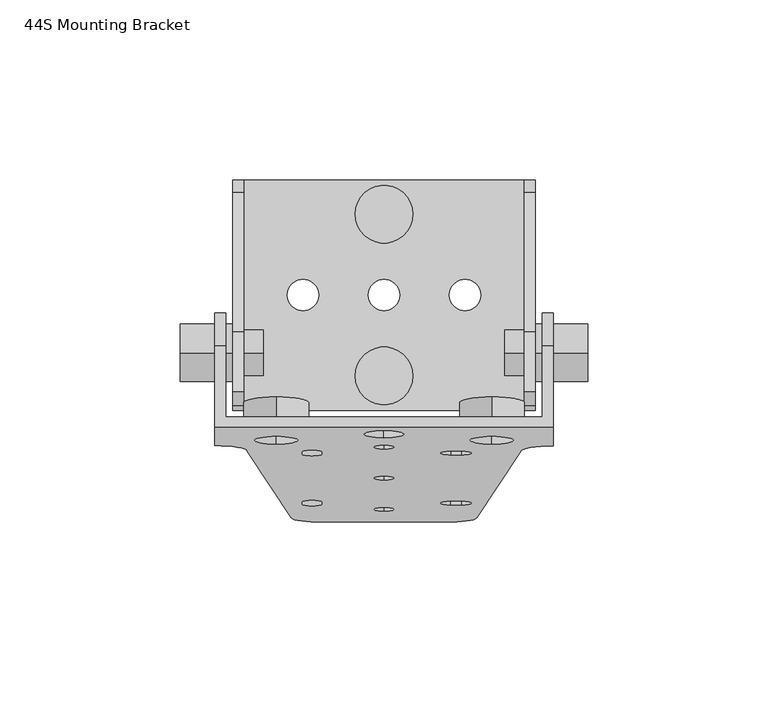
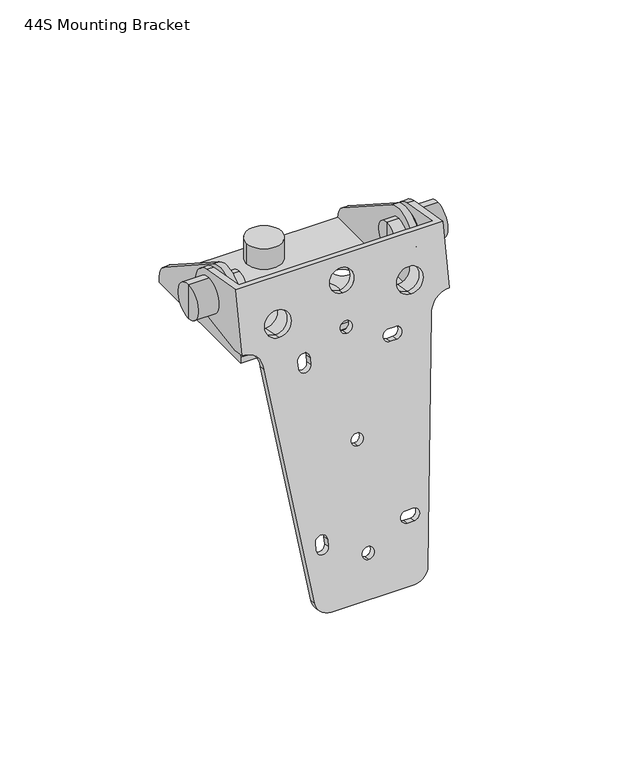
"""IFC4 building model written with IfcOpenShell, lengths in millimetres: proxy geometry, d&b xS-Series 44S Mounting Bracket : 44S Mounting Bracket."""

from ifc_helpers import new_model, si_unit, point, frame, frame_2d, origin, origin_with_axes, place, context, project, spatial, polyline, circle_curve, trimmed, segment, composite_curve, outline, extrude, source, transform, mapped, element, save
from ifc_brep_helpers import plane_surface, cylinder_surface, revolved_surface, advanced_brep


def proxy_44s_mounting_bracket_82e6f1c7(model_context):
    return source(origin(), model_context, "Body", "SolidModel", [
        advanced_brep(
        [(-25.7132706, -58.9735909, -103.2943461), (-37.9949251, -40.4356199, 1.8397119), (-47.0, -38.871905, 10.7079795), (-44.0, -38.871905, 10.7079795), (-44.0, -33.8293291, 39.3058488), (44.0, -33.8293291, 39.3058488), (44.0, -38.871905, 10.7079795), (47.0, -38.871905, 10.7079795), (47.0, -38.9263951, 10.3989511), (37.9541317, -40.4971936, 1.4905099), (25.7132706, -58.9735909, -103.2943461), (18.7591389, -60.0502039, -109.4001219), (-18.7591389, -60.0502039, -109.4001219), (-29.9380242, -38.4341216, 13.1907728), (-29.9380242, -36.3503434, 25.0084658), (29.9380242, -38.4341216, 13.1907728), (29.9380242, -36.3503434, 25.0084658), (0.0, -57.0547728, -92.4121881), (0.0, -56.0997078, -86.9957455), (0.0, -39.7767791, 5.5761833), (0.0, -38.8217142, 10.9926259), (0.0, -36.694524, 23.0565209), (0.0, -34.784394, 33.8894062), (-22.75, -40.6884321, 0.4059426), (-22.75, -41.2093766, -2.5484807), (-17.25, -41.2093766, -2.5484807), (-17.25, -40.6884321, 0.4059426), (21.5, -40.4713719, 1.6369523), (18.5, -40.4713719, 1.6369523), (18.5, -41.4264368, -3.7794904), (21.5, -41.4264368, -3.7794904), (-17.25, -55.1012308, -81.3331009), (-17.25, -54.5802863, -78.3786776), (-22.75, -54.5802863, -78.3786776), (-22.75, -55.1012308, -81.3331009), (18.5, -55.318291, -82.5641106), (21.5, -55.318291, -82.5641106), (21.5, -54.3632261, -77.147668), (18.5, -54.3632261, -77.147668), (0.0, -48.3723639, -43.1718005), (0.0, -47.417299, -37.7553578), (-25.7132706, -61.9280142, -102.7734016), (-18.7591389, -63.0046271, -108.8791773), (18.7591389, -63.0046271, -108.8791773), (25.7132706, -61.9280142, -102.7734016), (37.9541317, -43.4516169, 2.0114544), (47.0, -41.8808183, 10.9198956), (47.0, -36.7837523, 39.8267934), (-47.0, -36.7837523, 39.8267934), (-47.0, -41.8263283, 11.228924), (-37.9949251, -43.3900431, 2.3606565), (-29.9380242, -41.3885448, 13.7117173), (-29.9380242, -39.3047667, 25.5294104), (29.9380242, -41.3885448, 13.7117173), (29.9380242, -39.3047667, 25.5294104), (0.0, -60.0091961, -91.8912436), (0.0, -59.0541311, -86.474801), (0.0, -42.7312024, 6.0971278), (0.0, -41.7761374, 11.5135705), (0.0, -39.6489473, 23.5774654), (0.0, -37.7388173, 34.4103507), (-22.75, -43.6428553, 0.9268871), (-17.25, -43.6428553, 0.9268871), (-17.25, -44.1637999, -2.0275361), (-22.75, -44.1637999, -2.0275361), (21.5, -43.4257951, 2.1578968), (21.5, -44.3808601, -3.2585458), (18.5, -44.3808601, -3.2585458), (18.5, -43.4257951, 2.1578968), (-17.25, -58.0556541, -80.8121564), (-22.75, -58.0556541, -80.8121564), (-22.75, -57.5347096, -77.8577331), (-17.25, -57.5347096, -77.8577331), (18.5, -58.2727143, -82.0431661), (18.5, -57.3176493, -76.6267234), (21.5, -57.3176493, -76.6267234), (21.5, -58.2727143, -82.0431661), (0.0, -51.3267872, -42.6508559), (0.0, -50.3717222, -37.2344133), (-47.0, -14.133174, 35.8328853), (-47.0, -14.133174, 14.1671147), (-47.0, -36.3114049, 10.2564942), (47.0, -14.133174, 35.8328853), (44.0, -14.133174, 35.8328853), (-44.0, -14.133174, 35.8328853), (47.0, -36.3114049, 10.2564942), (47.0, -14.133174, 14.1671147), (44.0, -14.133174, 14.1671147), (44.0, -36.3114049, 10.2564942), (-44.0, -36.3114049, 10.2564942), (-44.0, -14.133174, 14.1671147)],
        [
            (0, 1),
            (1, 2, circle_curve(frame((-47.0, -40.4356199, 1.8397119), z_axis=(0.0, -0.984807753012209, 0.1736481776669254), x_axis=(0.0, 0.1736481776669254, 0.984807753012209)), 9.0050749)),
            (2, 3),
            (3, 4),
            (4, 5),
            (5, 6),
            (6, 7),
            (7, 8),
            (8, 9, circle_curve(frame((47.0, -40.4971936, 1.4905099), z_axis=(0.0, -0.984807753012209, 0.1736481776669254), x_axis=(0.0, 0.1736481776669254, 0.984807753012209)), 9.0458683)),
            (9, 10),
            (10, 11, circle_curve(frame((18.7591389, -58.8346666, -102.5064676), z_axis=(0.0, 0.984807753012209, -0.1736481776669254), x_axis=(0.0, 0.1736481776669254, 0.984807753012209)), 7.0)),
            (11, 12),
            (12, 0, circle_curve(frame((-18.7591389, -58.8346666, -102.5064676), z_axis=(0.0, 0.984807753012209, -0.1736481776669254), x_axis=(0.0, 0.1736481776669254, 0.984807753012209)), 7.0)),
            (13, 14, circle_curve(frame((-29.9380242, -37.3922325, 19.0996193), z_axis=(0.0, -0.984807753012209, 0.17364817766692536), x_axis=(0.0, 0.17364817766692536, 0.984807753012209)), 6.0)),
            (14, 13, circle_curve(frame((-29.9380242, -37.3922325, 19.0996193), z_axis=(0.0, -0.984807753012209, 0.17364817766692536), x_axis=(0.0, 0.17364817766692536, 0.984807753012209)), 6.0)),
            (15, 16, circle_curve(frame((29.9380242, -37.3922325, 19.0996193), z_axis=(0.0, -0.984807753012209, 0.17364817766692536), x_axis=(0.0, 0.17364817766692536, 0.984807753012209)), 6.0)),
            (16, 15, circle_curve(frame((29.9380242, -37.3922325, 19.0996193), z_axis=(0.0, -0.984807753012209, 0.17364817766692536), x_axis=(0.0, 0.17364817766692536, 0.984807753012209)), 6.0)),
            (17, 18, circle_curve(frame((0.0, -56.5772403, -89.7039668), z_axis=(0.0, -0.984807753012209, 0.17364817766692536), x_axis=(0.0, 0.17364817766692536, 0.984807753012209)), 2.75)),
            (18, 17, circle_curve(frame((0.0, -56.5772403, -89.7039668), z_axis=(0.0, -0.984807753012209, 0.17364817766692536), x_axis=(0.0, 0.17364817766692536, 0.984807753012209)), 2.75)),
            (19, 20, circle_curve(frame((0.0, -39.2992467, 8.2844046), z_axis=(0.0, -0.984807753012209, 0.17364817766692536), x_axis=(0.0, 0.17364817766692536, 0.984807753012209)), 2.75)),
            (20, 19, circle_curve(frame((0.0, -39.2992467, 8.2844046), z_axis=(0.0, -0.984807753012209, 0.17364817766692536), x_axis=(0.0, 0.17364817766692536, 0.984807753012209)), 2.75)),
            (21, 22, circle_curve(frame((0.0, -35.739459, 28.4729636), z_axis=(0.0, -0.984807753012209, 0.17364817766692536), x_axis=(0.0, 0.17364817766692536, 0.984807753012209)), 5.5)),
            (22, 21, circle_curve(frame((0.0, -35.739459, 28.4729636), z_axis=(0.0, -0.984807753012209, 0.17364817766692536), x_axis=(0.0, 0.17364817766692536, 0.984807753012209)), 5.5)),
            (23, 24),
            (24, 25, circle_curve(frame((-20.0, -41.2093766, -2.5484807), z_axis=(0.0, -0.984807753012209, 0.17364817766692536), x_axis=(0.0, 0.17364817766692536, 0.984807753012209)), 2.75)),
            (25, 26),
            (26, 23, circle_curve(frame((-20.0, -40.6884321, 0.4059426), z_axis=(0.0, -0.984807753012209, 0.17364817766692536), x_axis=(0.0, 0.17364817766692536, 0.984807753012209)), 2.75)),
            (27, 28),
            (28, 29, circle_curve(frame((18.5, -40.9489043, -1.071269), z_axis=(0.0, -0.984807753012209, 0.17364817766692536), x_axis=(0.0, 0.17364817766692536, 0.984807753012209)), 2.75)),
            (29, 30),
            (30, 27, circle_curve(frame((21.5, -40.9489043, -1.071269), z_axis=(0.0, -0.984807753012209, 0.17364817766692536), x_axis=(0.0, 0.17364817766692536, 0.984807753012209)), 2.75)),
            (31, 32),
            (32, 33, circle_curve(frame((-20.0, -54.5802863, -78.3786776), z_axis=(0.0, -0.984807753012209, 0.17364817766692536), x_axis=(0.0, 0.17364817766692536, 0.984807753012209)), 2.75)),
            (33, 34),
            (34, 31, circle_curve(frame((-20.0, -55.1012308, -81.3331009), z_axis=(0.0, -0.984807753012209, 0.17364817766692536), x_axis=(0.0, 0.17364817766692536, 0.984807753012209)), 2.75)),
            (35, 36),
            (36, 37, circle_curve(frame((21.5, -54.8407586, -79.8558893), z_axis=(0.0, -0.984807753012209, 0.17364817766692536), x_axis=(0.0, 0.17364817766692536, 0.984807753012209)), 2.75)),
            (37, 38),
            (38, 35, circle_curve(frame((18.5, -54.8407586, -79.8558893), z_axis=(0.0, -0.984807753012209, 0.17364817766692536), x_axis=(0.0, 0.17364817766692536, 0.984807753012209)), 2.75)),
            (39, 40, circle_curve(frame((0.0, -47.8948315, -40.4635792), z_axis=(0.0, -0.984807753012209, 0.17364817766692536), x_axis=(0.0, 0.17364817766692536, 0.984807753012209)), 2.75)),
            (40, 39, circle_curve(frame((0.0, -47.8948315, -40.4635792), z_axis=(0.0, -0.984807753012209, 0.17364817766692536), x_axis=(0.0, 0.17364817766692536, 0.984807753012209)), 2.75)),
            (41, 42, circle_curve(frame((-18.7591389, -61.7890899, -101.9855231), z_axis=(0.0, -0.984807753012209, 0.1736481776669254), x_axis=(0.0, 0.1736481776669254, 0.984807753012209)), 7.0)),
            (42, 43),
            (43, 44, circle_curve(frame((18.7591389, -61.7890899, -101.9855231), z_axis=(0.0, -0.984807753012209, 0.1736481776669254), x_axis=(0.0, 0.1736481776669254, 0.984807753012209)), 7.0)),
            (44, 45),
            (45, 46, circle_curve(frame((47.0, -43.4516169, 2.0114544), z_axis=(0.0, 0.984807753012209, -0.1736481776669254), x_axis=(0.0, 0.1736481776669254, 0.984807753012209)), 9.0458683)),
            (46, 47),
            (47, 48),
            (48, 49),
            (49, 50, circle_curve(frame((-47.0, -43.3900431, 2.3606565), z_axis=(0.0, 0.984807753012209, -0.1736481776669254), x_axis=(0.0, 0.1736481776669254, 0.984807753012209)), 9.0050749)),
            (50, 41),
            (51, 52, circle_curve(frame((-29.9380242, -40.3466558, 19.6205639), z_axis=(0.0, 0.984807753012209, -0.17364817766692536), x_axis=(0.0, 0.17364817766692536, 0.984807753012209)), 6.0)),
            (52, 51, circle_curve(frame((-29.9380242, -40.3466558, 19.6205639), z_axis=(0.0, 0.984807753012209, -0.17364817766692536), x_axis=(0.0, 0.17364817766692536, 0.984807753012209)), 6.0)),
            (53, 54, circle_curve(frame((29.9380242, -40.3466558, 19.6205639), z_axis=(0.0, 0.984807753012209, -0.17364817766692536), x_axis=(0.0, 0.17364817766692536, 0.984807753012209)), 6.0)),
            (54, 53, circle_curve(frame((29.9380242, -40.3466558, 19.6205639), z_axis=(0.0, 0.984807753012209, -0.17364817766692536), x_axis=(0.0, 0.17364817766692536, 0.984807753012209)), 6.0)),
            (55, 56, circle_curve(frame((0.0, -59.5316636, -89.1830223), z_axis=(0.0, 0.984807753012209, -0.17364817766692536), x_axis=(0.0, 0.17364817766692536, 0.984807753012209)), 2.75)),
            (56, 55, circle_curve(frame((0.0, -59.5316636, -89.1830223), z_axis=(0.0, 0.984807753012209, -0.17364817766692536), x_axis=(0.0, 0.17364817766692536, 0.984807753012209)), 2.75)),
            (57, 58, circle_curve(frame((0.0, -42.2536699, 8.8053491), z_axis=(0.0, 0.984807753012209, -0.17364817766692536), x_axis=(0.0, 0.17364817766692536, 0.984807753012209)), 2.75)),
            (58, 57, circle_curve(frame((0.0, -42.2536699, 8.8053491), z_axis=(0.0, 0.984807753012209, -0.17364817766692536), x_axis=(0.0, 0.17364817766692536, 0.984807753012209)), 2.75)),
            (59, 60, circle_curve(frame((0.0, -38.6938823, 28.9939081), z_axis=(0.0, 0.984807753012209, -0.17364817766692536), x_axis=(0.0, 0.17364817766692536, 0.984807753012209)), 5.5)),
            (60, 59, circle_curve(frame((0.0, -38.6938823, 28.9939081), z_axis=(0.0, 0.984807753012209, -0.17364817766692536), x_axis=(0.0, 0.17364817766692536, 0.984807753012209)), 5.5)),
            (61, 62, circle_curve(frame((-20.0, -43.6428553, 0.9268871), z_axis=(0.0, 0.984807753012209, -0.17364817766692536), x_axis=(0.0, 0.17364817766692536, 0.984807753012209)), 2.75)),
            (62, 63),
            (63, 64, circle_curve(frame((-20.0, -44.1637999, -2.0275361), z_axis=(0.0, 0.984807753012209, -0.17364817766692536), x_axis=(0.0, 0.17364817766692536, 0.984807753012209)), 2.75)),
            (64, 61),
            (65, 66, circle_curve(frame((21.5, -43.9033276, -0.5503245), z_axis=(0.0, 0.984807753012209, -0.17364817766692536), x_axis=(0.0, 0.17364817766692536, 0.984807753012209)), 2.75)),
            (66, 67),
            (67, 68, circle_curve(frame((18.5, -43.9033276, -0.5503245), z_axis=(0.0, 0.984807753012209, -0.17364817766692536), x_axis=(0.0, 0.17364817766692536, 0.984807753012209)), 2.75)),
            (68, 65),
            (69, 70, circle_curve(frame((-20.0, -58.0556541, -80.8121564), z_axis=(0.0, 0.984807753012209, -0.17364817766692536), x_axis=(0.0, 0.17364817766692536, 0.984807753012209)), 2.75)),
            (70, 71),
            (71, 72, circle_curve(frame((-20.0, -57.5347096, -77.8577331), z_axis=(0.0, 0.984807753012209, -0.17364817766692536), x_axis=(0.0, 0.17364817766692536, 0.984807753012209)), 2.75)),
            (72, 69),
            (73, 74, circle_curve(frame((18.5, -57.7951818, -79.3349447), z_axis=(0.0, 0.984807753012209, -0.17364817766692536), x_axis=(0.0, 0.17364817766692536, 0.984807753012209)), 2.75)),
            (74, 75),
            (75, 76, circle_curve(frame((21.5, -57.7951818, -79.3349447), z_axis=(0.0, 0.984807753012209, -0.17364817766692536), x_axis=(0.0, 0.17364817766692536, 0.984807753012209)), 2.75)),
            (76, 73),
            (77, 78, circle_curve(frame((0.0, -50.8492547, -39.9426346), z_axis=(0.0, 0.984807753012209, -0.17364817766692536), x_axis=(0.0, 0.17364817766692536, 0.984807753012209)), 2.75)),
            (78, 77, circle_curve(frame((0.0, -50.8492547, -39.9426346), z_axis=(0.0, 0.984807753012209, -0.17364817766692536), x_axis=(0.0, 0.17364817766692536, 0.984807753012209)), 2.75)),
            (0, 41),
            (50, 1),
            (49, 2),
            (48, 79),
            (79, 80, circle_curve(frame((-47.0, -16.043304, 25.0), z_axis=(-1.0, 0.0, 0.0), x_axis=(0.0, 0.17364817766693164, 0.9848077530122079)), 11.0)),
            (80, 81),
            (81, 2),
            (47, 82),
            (82, 83),
            (83, 5),
            (4, 84),
            (84, 79),
            (46, 8),
            (7, 85),
            (85, 86),
            (86, 82, circle_curve(frame((47.0, -16.043304, 25.0), z_axis=(1.0, 0.0, 0.0), x_axis=(0.0, 0.1736481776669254, 0.984807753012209)), 11.0)),
            (45, 9),
            (44, 10),
            (43, 11),
            (42, 12),
            (13, 51),
            (52, 14),
            (15, 53),
            (54, 16),
            (17, 55),
            (56, 18),
            (19, 57),
            (58, 20),
            (21, 59),
            (60, 22),
            (23, 61),
            (64, 24),
            (63, 25),
            (62, 26),
            (27, 65),
            (68, 28),
            (67, 29),
            (66, 30),
            (31, 69),
            (72, 32),
            (71, 33),
            (70, 34),
            (35, 73),
            (76, 36),
            (75, 37),
            (74, 38),
            (83, 87, circle_curve(frame((44.0, -16.043304, 25.0), z_axis=(-1.0, 0.0, 0.0), x_axis=(0.0, 0.1736481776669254, 0.984807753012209)), 11.0)),
            (87, 88),
            (88, 6),
            (85, 88),
            (87, 86),
            (3, 89),
            (89, 90),
            (90, 84, circle_curve(frame((-44.0, -16.043304, 25.0), z_axis=(1.0, 0.0, 0.0), x_axis=(0.0, 0.17364817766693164, 0.9848077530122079)), 11.0)),
            (80, 90),
            (89, 81),
            (39, 77),
            (78, 40),
        ],
        [
            plane_surface(frame((-37.9541317, -40.4971936, 1.4905099), z_axis=(0.0, 0.9848077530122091, -0.17364817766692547), x_axis=(-0.11429040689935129, 0.17251032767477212, 0.9783546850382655))),
            plane_surface(frame((-37.9541317, -43.4516169, 2.0114544), z_axis=(0.0, -0.9848077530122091, 0.17364817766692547), x_axis=(0.11429040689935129, -0.17251032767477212, -0.9783546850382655))),
            plane_surface(frame((-25.7132706, -58.9735909, -103.2943461), z_axis=(-0.99344738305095, -0.019846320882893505, -0.1125540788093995), x_axis=(0.0, -0.9848077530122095, 0.17364817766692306))),
            revolved_surface(polyline([(-47.0, -41.826328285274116, 11.228924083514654), (-47.0, -38.87190499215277, 10.707979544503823)]), (-47.0, -43.3900431, 2.3606565), (0.0, -0.984807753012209, 0.1736481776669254)),
            plane_surface(frame((-47.0, -38.871905, 10.7079795), z_axis=(-1.0000000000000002, 0.0, 0.0), x_axis=(0.0, -0.9848077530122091, 0.17364817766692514))),
            plane_surface(frame((-47.0, -33.8293291, 39.3058488), z_axis=(0.0, 0.17364817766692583, 0.9848077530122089), x_axis=(0.0, -0.9848077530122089, 0.17364817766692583))),
            plane_surface(frame((47.0, -33.8293291, 39.3058488), z_axis=(1.0000000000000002, 0.0, 0.0), x_axis=(0.0, -0.9848077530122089, 0.17364817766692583))),
            revolved_surface(polyline([(47.0, -41.88081835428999, 10.919895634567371), (47.0, -38.92639506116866, 10.398951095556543)]), (47.0, -43.4516169, 2.0114544), (0.0, -0.984807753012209, 0.1736481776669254)),
            plane_surface(frame((37.9541317, -40.4971936, 1.4905099), z_axis=(0.9934473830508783, -0.019846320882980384, -0.11255407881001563), x_axis=(0.0, -0.9848077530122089, 0.17364817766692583))),
            cylinder_surface(frame((18.7591389, -61.7890899, -101.9855231), z_axis=(0.0, 0.984807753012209, -0.1736481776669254), x_axis=(0.0, 0.1736481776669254, 0.984807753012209)), 7.0),
            plane_surface(frame((18.7591389, -60.0502039, -109.4001219), z_axis=(0.0, -0.17364817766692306, -0.9848077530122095), x_axis=(0.0, -0.9848077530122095, 0.17364817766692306))),
            cylinder_surface(frame((-18.7591389, -61.7890899, -101.9855231), z_axis=(0.0, 0.984807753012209, -0.1736481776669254), x_axis=(0.0, 0.1736481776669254, 0.984807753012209)), 7.0),
            revolved_surface(polyline([(-29.9380242, -39.30476673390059, 25.529410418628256), (-29.9380242, -36.35034338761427, 25.008465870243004)]), (-29.9380242, -17.6960774, 15.6266558), (0.0, -0.984807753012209, 0.17364817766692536)),
            revolved_surface(polyline([(29.9380242, -39.30476673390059, 25.529410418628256), (29.9380242, -36.35034338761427, 25.008465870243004)]), (29.9380242, -17.6960774, 15.6266558), (0.0, -0.984807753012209, 0.17364817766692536)),
            revolved_surface(polyline([(0.0, -59.05413112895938, -86.47480099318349), (0.0, -56.0997078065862, -86.9957455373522)]), (0.0, -36.8810853, -93.1769304), (0.0, -0.984807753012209, 0.17364817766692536)),
            revolved_surface(polyline([(0.0, -41.776137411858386, 11.513570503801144), (0.0, -38.82171411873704, 10.992625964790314)]), (0.0, -19.6030916, 4.8114411), (0.0, -0.984807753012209, 0.17364817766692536)),
            revolved_surface(polyline([(0.0, -37.738817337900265, 34.41035072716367), (0.0, -34.784394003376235, 33.889406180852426)]), (0.0, -16.043304, 25.0), (0.0, -0.984807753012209, 0.17364817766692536)),
            plane_surface(frame((-22.75, -40.6884321, 0.4059426), z_axis=(1.0000000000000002, 0.0, 0.0), x_axis=(0.0, -0.9848077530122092, 0.17364817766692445))),
            revolved_surface(polyline([(-20.0, -43.686267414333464, 0.6806852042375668), (-20.0, -40.73184410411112, 0.15974066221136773)]), (-20.0, -21.5132216, -6.0214442), (0.0, -0.984807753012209, 0.17364817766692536)),
            plane_surface(frame((-17.25, -41.2093766, -2.5484807), z_axis=(-1.0000000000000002, 0.0, 0.0), x_axis=(0.0, -0.9848077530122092, 0.17364817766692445))),
            revolved_surface(polyline([(-20.0, -43.165322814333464, 3.635108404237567), (-20.0, -40.210899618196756, 3.114163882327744)]), (-20.0, -20.992277, -3.067021), (0.0, -0.984807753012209, 0.17364817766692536)),
            plane_surface(frame((21.5, -40.4713719, 1.6369523), z_axis=(0.0, -0.17364817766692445, -0.9848077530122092), x_axis=(0.0, -0.9848077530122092, 0.17364817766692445))),
            revolved_surface(polyline([(18.5, -43.42579512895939, 2.1578968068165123), (18.5, -40.47137181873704, 1.6369522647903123)]), (18.5, -21.2527493, -4.5442326), (0.0, -0.984807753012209, 0.17364817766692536)),
            plane_surface(frame((18.5, -41.4264368, -3.7794904), z_axis=(0.0, 0.17364817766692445, 0.9848077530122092), x_axis=(0.0, -0.9848077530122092, 0.17364817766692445))),
            revolved_surface(polyline([(21.5, -43.42579512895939, 2.1578968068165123), (21.5, -40.47137181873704, 1.6369522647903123)]), (21.5, -21.2527493, -4.5442326), (0.0, -0.984807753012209, 0.17364817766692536)),
            plane_surface(frame((-17.25, -55.1012308, -81.3331009), z_axis=(-1.0000000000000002, 0.0, 0.0), x_axis=(0.0, -0.9848077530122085, 0.1736481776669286))),
            revolved_surface(polyline([(-20.0, -57.0571771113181, -75.14951177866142), (-20.0, -54.10275381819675, -75.67045631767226)]), (-20.0, -34.8841312, -81.8516412), (0.0, -0.984807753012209, 0.17364817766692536)),
            plane_surface(frame((-22.75, -54.5802863, -78.3786776), z_axis=(1.0000000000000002, 0.0, 0.0), x_axis=(0.0, -0.9848077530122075, 0.17364817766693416))),
            revolved_surface(polyline([(-20.0, -57.57812161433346, -78.10393509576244), (-20.0, -54.62369832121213, -78.62487963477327)]), (-20.0, -35.4050758, -84.8060645), (0.0, -0.984807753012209, 0.17364817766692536)),
            plane_surface(frame((18.5, -55.318291, -82.5641106), z_axis=(0.0, 0.17364817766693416, 0.9848077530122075), x_axis=(0.0, -0.9848077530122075, 0.17364817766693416))),
            revolved_surface(polyline([(21.5, -57.317649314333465, -76.62672339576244), (21.5, -54.363226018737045, -77.14766793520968)]), (21.5, -35.1446035, -83.3288528), (0.0, -0.984807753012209, 0.17364817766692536)),
            plane_surface(frame((21.5, -54.3632261, -77.147668), z_axis=(0.0, -0.17364817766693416, -0.9848077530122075), x_axis=(0.0, -0.9848077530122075, 0.17364817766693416))),
            revolved_surface(polyline([(18.5, -57.317649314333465, -76.62672339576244), (18.5, -54.363226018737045, -77.14766793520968)]), (18.5, -35.1446035, -83.3288528), (0.0, -0.984807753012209, 0.17364817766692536)),
            plane_surface(frame((44.0, -33.8293291, 39.3058488), z_axis=(-1.0000000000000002, 0.0, 0.0), x_axis=(0.0, 0.17364817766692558, 0.984807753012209))),
            plane_surface(frame((47.0, -36.3114049, 10.2564942), z_axis=(0.0, 0.17364817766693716, -0.984807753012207), x_axis=(-1.0, 0.0, 0.0))),
            cylinder_surface(frame((44.0, -16.043304, 25.0), z_axis=(1.0, 0.0, 0.0), x_axis=(0.0, 0.1736481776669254, 0.984807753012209)), 11.0),
            plane_surface(frame((47.0, -38.871905, 10.7079795), z_axis=(0.0, -0.17364817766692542, -0.984807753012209), x_axis=(-1.0, 0.0, 0.0))),
            plane_surface(frame((-44.0, -14.133174, 35.8328853), z_axis=(1.0000000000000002, 0.0, 0.0), x_axis=(0.0, -0.9848077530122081, 0.1736481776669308))),
            plane_surface(frame((-47.0, -14.133174, 14.1671147), z_axis=(0.0, 0.17364817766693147, -0.984807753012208), x_axis=(1.0, 0.0, 0.0))),
            cylinder_surface(frame((-44.0, -16.043304, 25.0), z_axis=(-1.0, 0.0, 0.0), x_axis=(0.0, 0.17364817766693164, 0.9848077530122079)), 11.0),
            plane_surface(frame((-47.0, -36.3114049, 10.2564942), z_axis=(0.0, -0.17364817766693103, -0.984807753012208), x_axis=(1.0, 0.0, 0.0))),
            revolved_surface(polyline([(0.0, -50.371722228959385, -37.234413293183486), (0.0, -47.417298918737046, -37.755357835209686)]), (0.0, -28.1986764, -43.9365427), (0.0, -0.984807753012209, 0.17364817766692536)),
        ],
        [
            (0, [[1, 2, 3, 4, 5, 6, 7, 8, 9, 10, 11, 12, 13], [14, 15], [16, 17], [18, 19], [20, 21], [22, 23], [24, 25, 26, 27], [28, 29, 30, 31], [32, 33, 34, 35], [36, 37, 38, 39], [40, 41]]),
            (1, [[42, 43, 44, 45, 46, 47, 48, 49, 50, 51], [52, 53], [54, 55], [56, 57], [58, 59], [60, 61], [62, 63, 64, 65], [66, 67, 68, 69], [70, 71, 72, 73], [74, 75, 76, 77], [78, 79]]),
            (2, [[-1, 80, -51, 81]]),
            (3, [[-2, -81, -50, 82]]),
            (4, [[-49, 83, 84, 85, 86, -82]]),
            (5, [[-83, -48, 87, 88, 89, -5, 90, 91]]),
            (6, [[-47, 92, -8, 93, 94, 95, -87]]),
            (7, [[-9, -92, -46, 96]]),
            (8, [[-10, -96, -45, 97]]),
            (9, [[-11, -97, -44, 98]]),
            (10, [[-12, -98, -43, 99]]),
            (11, [[-13, -99, -42, -80]]),
            (12, [[-14, 100, -53, 101]]),
            (12, [[-15, -101, -52, -100]]),
            (13, [[-16, 102, -55, 103]]),
            (13, [[-17, -103, -54, -102]]),
            (14, [[-18, 104, -57, 105]]),
            (14, [[-19, -105, -56, -104]]),
            (15, [[-20, 106, -59, 107]]),
            (15, [[-21, -107, -58, -106]]),
            (16, [[-22, 108, -61, 109]]),
            (16, [[-23, -109, -60, -108]]),
            (17, [[-24, 110, -65, 111]]),
            (18, [[-25, -111, -64, 112]]),
            (19, [[-26, -112, -63, 113]]),
            (20, [[-27, -113, -62, -110]]),
            (21, [[-28, 114, -69, 115]]),
            (22, [[-29, -115, -68, 116]]),
            (23, [[-30, -116, -67, 117]]),
            (24, [[-31, -117, -66, -114]]),
            (25, [[-32, 118, -73, 119]]),
            (26, [[-33, -119, -72, 120]]),
            (27, [[-34, -120, -71, 121]]),
            (28, [[-35, -121, -70, -118]]),
            (29, [[-36, 122, -77, 123]]),
            (30, [[-37, -123, -76, 124]]),
            (31, [[-38, -124, -75, 125]]),
            (32, [[-39, -125, -74, -122]]),
            (33, [[-89, 126, 127, 128, -6]]),
            (34, [[-94, 129, -127, 130]]),
            (35, [[-95, -130, -126, -88]]),
            (36, [[-93, -7, -128, -129]]),
            (37, [[131, 132, 133, -90, -4]]),
            (38, [[-85, 134, -132, 135]]),
            (39, [[-84, -91, -133, -134]]),
            (40, [[-86, -135, -131, -3]]),
            (41, [[-40, 136, -79, 137]]),
            (41, [[-41, -137, -78, -136]]),
        ],
    ),
        extrude(outline(composite_curve([segment(trimmed(circle_curve(frame_2d((0.0, 6.0)), 9.0), [point((0.0, 15.0))], [point((0.0, -3.0))], False, "CARTESIAN"), True, "CONTINUOUS"), segment(trimmed(circle_curve(frame_2d((0.0, 6.0)), 9.0), [point((0.0, -3.0))], [point((0.0, 15.0))], False, "CARTESIAN"), True, "CONTINUOUS")], self_intersect=False), holes=[composite_curve([segment(trimmed(circle_curve(frame_2d((0.0, 6.0)), 6.0), [point((0.0, 12.0))], [point((0.0, 0.0))], True, "CARTESIAN"), True, "CONTINUOUS"), segment(trimmed(circle_curve(frame_2d((0.0, 6.0)), 6.0), [point((0.0, 0.0))], [point((0.0, 12.0))], True, "CARTESIAN"), True, "CONTINUOUS")], self_intersect=False)]), frame((-29.9380242, -28.8658045, 23.6887397), z_axis=(0.0, -0.984807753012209, 0.1736481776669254), x_axis=(-1.0, 0.0, 0.0)), (0.0, 0.0, 1.0), 7.6),
        extrude(outline(composite_curve([segment(trimmed(circle_curve(frame_2d((-59.8760484, 6.0)), 9.0), [point((-59.8760484, 15.0))], [point((-59.8760484, -3.0))], False, "CARTESIAN"), True, "CONTINUOUS"), segment(trimmed(circle_curve(frame_2d((-59.8760484, 6.0)), 9.0), [point((-59.8760484, -3.0))], [point((-59.8760484, 15.0))], False, "CARTESIAN"), True, "CONTINUOUS")], self_intersect=False), holes=[composite_curve([segment(trimmed(circle_curve(frame_2d((-59.8760484, 6.0)), 6.0), [point((-59.8760484, 12.0))], [point((-59.8760484, 0.0))], True, "CARTESIAN"), True, "CONTINUOUS"), segment(trimmed(circle_curve(frame_2d((-59.8760484, 6.0)), 6.0), [point((-59.8760484, 0.0))], [point((-59.8760484, 12.0))], True, "CARTESIAN"), True, "CONTINUOUS")], self_intersect=False)]), frame((-29.9380242, -28.8658045, 23.6887397), z_axis=(0.0, -0.984807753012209, 0.1736481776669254), x_axis=(-1.0, 0.0, 0.0)), (0.0, 0.0, 1.0), 7.6),
        advanced_brep(
        [(-56.6, -16.043304, 25.0), (-56.6, -16.043304, 33.0047051), (-56.6, -16.043304, 16.9952949), (-47.0, -16.043304, 16.9952949), (-47.0, -16.043304, 33.0047051), (-47.0, -16.043304, 25.0)],
        [
            (0, 1),
            (1, 2, circle_curve(frame((-56.6, -16.043304, 25.0), z_axis=(-1.0, 0.0, 0.0), x_axis=(0.0, 0.0, 1.0)), 8.0047051)),
            (2, 0),
            (2, 1, circle_curve(frame((-56.6, -16.043304, 25.0), z_axis=(-1.0, 0.0, 0.0), x_axis=(0.0, 0.0, 1.0)), 8.0047051)),
            (3, 4, circle_curve(frame((-47.0, -16.043304, 25.0), z_axis=(1.0, 0.0, 0.0), x_axis=(0.0, 0.0, 1.0)), 8.0047051)),
            (4, 5),
            (5, 3),
            (4, 3, circle_curve(frame((-47.0, -16.043304, 25.0), z_axis=(1.0, 0.0, 0.0), x_axis=(0.0, 0.0, 1.0)), 8.0047051)),
            (1, 4),
            (3, 2),
        ],
        [
            plane_surface(frame((-56.6, -16.043304, 25.0), z_axis=(-1.0, 0.0, 0.0), x_axis=(0.0, 0.0, 1.0))),
            plane_surface(frame((-47.0, -16.043304, 25.0), z_axis=(1.0, 0.0, 0.0), x_axis=(0.0, 0.0, 1.0))),
            cylinder_surface(frame((-71.6, -16.043304, 25.0), z_axis=(-1.0, 0.0, 0.0), x_axis=(0.0, 0.0, 1.0)), 8.0047051),
        ],
        [
            (0, [[1, 2, 3]]),
            (0, [[-3, 4, -1]]),
            (1, [[5, 6, 7]]),
            (1, [[8, -7, -6]]),
            (2, [[-2, 9, -5, 10]]),
            (2, [[-4, -10, -8, -9]]),
        ],
    ),
        advanced_brep(
        [(-44.0, -16.043304, 16.9952949), (-44.0, -16.043304, 33.0047051), (-42.0, -16.043304, 33.0047051), (-42.0, -16.043304, 16.9952949), (-44.0, -16.043304, 25.0), (-42.0, -16.043304, 25.0)],
        [
            (0, 1, circle_curve(frame((-44.0, -16.043304, 25.0), z_axis=(1.0, 0.0, 0.0), x_axis=(0.0, 0.0, 1.0)), 8.0047051)),
            (1, 2),
            (2, 3, circle_curve(frame((-42.0, -16.043304, 25.0), z_axis=(-1.0, 0.0, 0.0), x_axis=(0.0, 0.0, 1.0)), 8.0047051)),
            (3, 0),
            (1, 0, circle_curve(frame((-44.0, -16.043304, 25.0), z_axis=(1.0, 0.0, 0.0), x_axis=(0.0, 0.0, 1.0)), 8.0047051)),
            (3, 2, circle_curve(frame((-42.0, -16.043304, 25.0), z_axis=(-1.0, 0.0, 0.0), x_axis=(0.0, 0.0, 1.0)), 8.0047051)),
            (4, 1),
            (0, 4),
            (2, 5),
            (5, 3),
        ],
        [
            cylinder_surface(frame((-71.6, -16.043304, 25.0), z_axis=(-1.0, 0.0, 0.0), x_axis=(0.0, 0.0, 1.0)), 8.0047051),
            plane_surface(frame((-44.0, -16.043304, 25.0), z_axis=(-1.0, 0.0, 0.0), x_axis=(0.0, 0.0, 1.0))),
            plane_surface(frame((-42.0, -16.043304, 25.0), z_axis=(1.0, 0.0, 0.0), x_axis=(0.0, 0.0, 1.0))),
        ],
        [
            (0, [[1, 2, 3, 4]]),
            (0, [[5, -4, 6, -2]]),
            (1, [[7, -1, 8]]),
            (1, [[-8, -5, -7]]),
            (2, [[-3, 9, 10]]),
            (2, [[-6, -10, -9]]),
        ],
    ),
        advanced_brep(
        [(-39.0, -16.043304, 18.6786387), (-39.0, -16.043304, 31.3213613), (-33.5, -16.043304, 31.3213613), (-33.5, -16.043304, 18.6786387), (-39.0, -16.043304, 25.0), (-33.5, -16.043304, 25.0)],
        [
            (0, 1, circle_curve(frame((-39.0, -16.043304, 25.0), z_axis=(1.0, 0.0, 0.0), x_axis=(0.0, 0.0, 1.0)), 6.3213613)),
            (1, 2),
            (2, 3, circle_curve(frame((-33.5, -16.043304, 25.0), z_axis=(-1.0, 0.0, 0.0), x_axis=(0.0, 0.0, 1.0)), 6.3213613)),
            (3, 0),
            (1, 0, circle_curve(frame((-39.0, -16.043304, 25.0), z_axis=(1.0, 0.0, 0.0), x_axis=(0.0, 0.0, 1.0)), 6.3213613)),
            (3, 2, circle_curve(frame((-33.5, -16.043304, 25.0), z_axis=(-1.0, 0.0, 0.0), x_axis=(0.0, 0.0, 1.0)), 6.3213613)),
            (4, 1),
            (0, 4),
            (2, 5),
            (5, 3),
        ],
        [
            cylinder_surface(frame((-71.6, -16.043304, 25.0), z_axis=(-1.0, 0.0, 0.0), x_axis=(0.0, 0.0, 1.0)), 6.3213613),
            plane_surface(frame((-39.0, -16.043304, 25.0), z_axis=(-1.0, 0.0, 0.0), x_axis=(0.0, 0.0, 1.0))),
            plane_surface(frame((-33.5, -16.043304, 25.0), z_axis=(1.0, 0.0, 0.0), x_axis=(0.0, 0.0, 1.0))),
        ],
        [
            (0, [[1, 2, 3, 4]]),
            (0, [[5, -4, 6, -2]]),
            (1, [[7, -1, 8]]),
            (1, [[-8, -5, -7]]),
            (2, [[-3, 9, 10]]),
            (2, [[-6, -10, -9]]),
        ],
    ),
        advanced_brep(
        [(47.0, -16.043304, 16.9952949), (47.0, -16.043304, 33.0047051), (56.6, -16.043304, 33.0047051), (56.6, -16.043304, 16.9952949), (47.0, -16.043304, 25.0), (56.6, -16.043304, 25.0)],
        [
            (0, 1, circle_curve(frame((47.0, -16.043304, 25.0), z_axis=(1.0, 0.0, 0.0), x_axis=(0.0, 0.0, 1.0)), 8.0047051)),
            (1, 2),
            (2, 3, circle_curve(frame((56.6, -16.043304, 25.0), z_axis=(-1.0, 0.0, 0.0), x_axis=(0.0, 0.0, 1.0)), 8.0047051)),
            (3, 0),
            (1, 0, circle_curve(frame((47.0, -16.043304, 25.0), z_axis=(1.0, 0.0, 0.0), x_axis=(0.0, 0.0, 1.0)), 8.0047051)),
            (3, 2, circle_curve(frame((56.6, -16.043304, 25.0), z_axis=(-1.0, 0.0, 0.0), x_axis=(0.0, 0.0, 1.0)), 8.0047051)),
            (4, 1),
            (0, 4),
            (2, 5),
            (5, 3),
        ],
        [
            cylinder_surface(frame((-71.6, -16.043304, 25.0), z_axis=(-1.0, 0.0, 0.0), x_axis=(0.0, 0.0, 1.0)), 8.0047051),
            plane_surface(frame((47.0, -16.043304, 25.0), z_axis=(-1.0, 0.0, 0.0), x_axis=(0.0, 0.0, 1.0))),
            plane_surface(frame((56.6, -16.043304, 25.0), z_axis=(1.0, 0.0, 0.0), x_axis=(0.0, 0.0, 1.0))),
        ],
        [
            (0, [[1, 2, 3, 4]]),
            (0, [[5, -4, 6, -2]]),
            (1, [[7, -1, 8]]),
            (1, [[-8, -5, -7]]),
            (2, [[-3, 9, 10]]),
            (2, [[-6, -10, -9]]),
        ],
    ),
        advanced_brep(
        [(42.0, -16.043304, 25.0), (42.0, -16.043304, 33.0047051), (42.0, -16.043304, 16.9952949), (44.0, -16.043304, 16.9952949), (44.0, -16.043304, 33.0047051), (44.0, -16.043304, 25.0)],
        [
            (0, 1),
            (1, 2, circle_curve(frame((42.0, -16.043304, 25.0), z_axis=(-1.0, 0.0, 0.0), x_axis=(0.0, 0.0, 1.0)), 8.0047051)),
            (2, 0),
            (2, 1, circle_curve(frame((42.0, -16.043304, 25.0), z_axis=(-1.0, 0.0, 0.0), x_axis=(0.0, 0.0, 1.0)), 8.0047051)),
            (3, 4, circle_curve(frame((44.0, -16.043304, 25.0), z_axis=(1.0, 0.0, 0.0), x_axis=(0.0, 0.0, 1.0)), 8.0047051)),
            (4, 5),
            (5, 3),
            (4, 3, circle_curve(frame((44.0, -16.043304, 25.0), z_axis=(1.0, 0.0, 0.0), x_axis=(0.0, 0.0, 1.0)), 8.0047051)),
            (1, 4),
            (3, 2),
        ],
        [
            plane_surface(frame((42.0, -16.043304, 25.0), z_axis=(-1.0, 0.0, 0.0), x_axis=(0.0, 0.0, 1.0))),
            plane_surface(frame((44.0, -16.043304, 25.0), z_axis=(1.0, 0.0, 0.0), x_axis=(0.0, 0.0, 1.0))),
            cylinder_surface(frame((-71.6, -16.043304, 25.0), z_axis=(-1.0, 0.0, 0.0), x_axis=(0.0, 0.0, 1.0)), 8.0047051),
        ],
        [
            (0, [[1, 2, 3]]),
            (0, [[-3, 4, -1]]),
            (1, [[5, 6, 7]]),
            (1, [[8, -7, -6]]),
            (2, [[-2, 9, -5, 10]]),
            (2, [[-4, -10, -8, -9]]),
        ],
    ),
        advanced_brep(
        [(33.5, -16.043304, 25.0), (33.5, -16.043304, 31.3213613), (33.5, -16.043304, 18.6786387), (39.0, -16.043304, 18.6786387), (39.0, -16.043304, 31.3213613), (39.0, -16.043304, 25.0)],
        [
            (0, 1),
            (1, 2, circle_curve(frame((33.5, -16.043304, 25.0), z_axis=(-1.0, 0.0, 0.0), x_axis=(0.0, 0.0, 1.0)), 6.3213613)),
            (2, 0),
            (2, 1, circle_curve(frame((33.5, -16.043304, 25.0), z_axis=(-1.0, 0.0, 0.0), x_axis=(0.0, 0.0, 1.0)), 6.3213613)),
            (3, 4, circle_curve(frame((39.0, -16.043304, 25.0), z_axis=(1.0, 0.0, 0.0), x_axis=(0.0, 0.0, 1.0)), 6.3213613)),
            (4, 5),
            (5, 3),
            (4, 3, circle_curve(frame((39.0, -16.043304, 25.0), z_axis=(1.0, 0.0, 0.0), x_axis=(0.0, 0.0, 1.0)), 6.3213613)),
            (1, 4),
            (3, 2),
        ],
        [
            plane_surface(frame((33.5, -16.043304, 25.0), z_axis=(-1.0, 0.0, 0.0), x_axis=(0.0, 0.0, 1.0))),
            plane_surface(frame((39.0, -16.043304, 25.0), z_axis=(1.0, 0.0, 0.0), x_axis=(0.0, 0.0, 1.0))),
            cylinder_surface(frame((-71.6, -16.043304, 25.0), z_axis=(-1.0, 0.0, 0.0), x_axis=(0.0, 0.0, 1.0)), 6.3213613),
        ],
        [
            (0, [[1, 2, 3]]),
            (0, [[-3, 4, -1]]),
            (1, [[5, 6, 7]]),
            (1, [[8, -7, -6]]),
            (2, [[-2, 9, -5, 10]]),
            (2, [[-4, -10, -8, -9]]),
        ],
    ),
        advanced_brep(
        [(39.0, -32.043304, 2.8), (39.0, 31.956696, 2.8), (-39.0, 31.956696, 2.8), (-39.0, -32.043304, 2.8), (-8.0, 22.4524055, 2.8), (8.0, 22.4524055, 2.8), (-4.3493147, 0.0, 2.8), (4.3493147, 0.0, 2.8), (-26.8553603, 0.0, 2.8), (-18.1567308, 0.0, 2.8), (26.8553603, 0.0, 2.8), (18.1567308, 0.0, 2.8), (42.0, 31.956696, 0.0), (42.0, -32.043304, 0.0), (-42.0, -32.043304, 0.0), (-42.0, 31.956696, 0.0), (-8.0, 22.4524055, 0.0), (8.0, 22.4524055, 0.0), (-4.3493147, 0.0, 0.0), (4.3493147, 0.0, 0.0), (-26.8553603, 0.0, 0.0), (-18.1567308, 0.0, 0.0), (26.8553603, 0.0, 0.0), (18.1567308, 0.0, 0.0), (-42.0, 31.956696, 2.8), (42.0, 31.956696, 2.8), (-42.0, -32.043304, 2.8), (-42.0, -30.7163008, 6.2872119), (-42.0, -26.8574722, 27.0133962), (-42.0, -10.0763582, 34.2409717), (-42.0, 28.4324065, 9.3756529), (42.0, -32.043304, 2.8), (42.0, 28.4324065, 9.3756529), (42.0, -10.0763582, 34.2409717), (42.0, -26.8574722, 27.0133962), (42.0, -30.7163008, 6.2872119), (39.0, 28.4324065, 9.3756529), (39.0, -30.7163008, 6.2872119), (39.0, -26.8574722, 27.0133962), (39.0, -10.0763582, 34.2409717), (-39.0, 28.4324065, 9.3756529), (-39.0, -10.0763582, 34.2409717), (-39.0, -26.8574722, 27.0133962), (-39.0, -30.7163008, 6.2872119)],
        [
            (0, 1),
            (1, 2),
            (2, 3),
            (3, 0),
            (4, 5, circle_curve(frame((0.0, 22.4524055, 2.8), z_axis=(0.0, 0.0, -1.0), x_axis=(1.0, 0.0, 0.0)), 8.0)),
            (5, 4, circle_curve(frame((0.0, 22.4524055, 2.8), z_axis=(0.0, 0.0, -1.0), x_axis=(1.0, 0.0, 0.0)), 8.0)),
            (6, 7, circle_curve(frame((0.0, 0.0, 2.8), z_axis=(0.0, 0.0, -1.0), x_axis=(1.0, 0.0, 0.0)), 4.3493147)),
            (7, 6, circle_curve(frame((0.0, 0.0, 2.8), z_axis=(0.0, 0.0, -1.0), x_axis=(1.0, 0.0, 0.0)), 4.3493147)),
            (8, 9, circle_curve(frame((-22.5060456, 0.0, 2.8), z_axis=(0.0, 0.0, -1.0), x_axis=(1.0, 0.0, 0.0)), 4.3493147)),
            (9, 8, circle_curve(frame((-22.5060456, 0.0, 2.8), z_axis=(0.0, 0.0, -1.0), x_axis=(1.0, 0.0, 0.0)), 4.3493147)),
            (10, 11, circle_curve(frame((22.5060456, 0.0, 2.8), z_axis=(0.0, 0.0, -1.0), x_axis=(-1.0, 0.0, 0.0)), 4.3493147)),
            (11, 10, circle_curve(frame((22.5060456, 0.0, 2.8), z_axis=(0.0, 0.0, -1.0), x_axis=(-1.0, 0.0, 0.0)), 4.3493147)),
            (12, 13),
            (13, 14),
            (14, 15),
            (15, 12),
            (16, 17, circle_curve(frame((0.0, 22.4524055, 0.0), z_axis=(0.0, 0.0, 1.0), x_axis=(1.0, 0.0, 0.0)), 8.0)),
            (17, 16, circle_curve(frame((0.0, 22.4524055, 0.0), z_axis=(0.0, 0.0, 1.0), x_axis=(1.0, 0.0, 0.0)), 8.0)),
            (18, 19, circle_curve(origin_with_axes(), 4.3493147)),
            (19, 18, circle_curve(origin_with_axes(), 4.3493147)),
            (20, 21, circle_curve(frame((-22.5060456, 0.0, 0.0), z_axis=(0.0, 0.0, 1.0), x_axis=(1.0, 0.0, 0.0)), 4.3493147)),
            (21, 20, circle_curve(frame((-22.5060456, 0.0, 0.0), z_axis=(0.0, 0.0, 1.0), x_axis=(1.0, 0.0, 0.0)), 4.3493147)),
            (22, 23, circle_curve(frame((22.5060456, 0.0, 0.0), z_axis=(0.0, 0.0, 1.0), x_axis=(-1.0, 0.0, 0.0)), 4.3493147)),
            (23, 22, circle_curve(frame((22.5060456, 0.0, 0.0), z_axis=(0.0, 0.0, 1.0), x_axis=(-1.0, 0.0, 0.0)), 4.3493147)),
            (15, 24),
            (24, 2),
            (1, 25),
            (25, 12),
            (14, 26),
            (26, 27, circle_curve(frame((-42.0, -40.9867523, 8.1993782), z_axis=(1.0, 0.0, 0.0), x_axis=(0.0, -1.0, 0.0)), 10.4469399)),
            (27, 28),
            (28, 29, circle_curve(frame((-42.0, -16.043304, 25.0), z_axis=(-1.0, 0.0, 0.0), x_axis=(0.0, -1.0, 0.0)), 11.0)),
            (29, 30),
            (30, 24, circle_curve(frame((-42.0, 24.2533538, 2.9035799), z_axis=(-1.0, 0.0, 0.0), x_axis=(0.0, -1.0, 0.0)), 7.7040386)),
            (13, 31),
            (31, 0),
            (3, 26),
            (25, 32, circle_curve(frame((42.0, 24.2533538, 2.9035799), z_axis=(1.0, 0.0, 0.0), x_axis=(0.0, -1.0, 0.0)), 7.7040386)),
            (32, 33),
            (33, 34, circle_curve(frame((42.0, -16.043304, 25.0), z_axis=(1.0, 0.0, 0.0), x_axis=(0.0, -1.0, 0.0)), 11.0)),
            (34, 35),
            (35, 31, circle_curve(frame((42.0, -40.9867523, 8.1993782), z_axis=(-1.0, 0.0, 0.0), x_axis=(0.0, -1.0, 0.0)), 10.4469399)),
            (36, 1, circle_curve(frame((39.0, 24.2533538, 2.9035799), z_axis=(-1.0, 0.0, 0.0), x_axis=(0.0, -1.0, 0.0)), 7.7040386)),
            (0, 37, circle_curve(frame((39.0, -40.9867523, 8.1993782), z_axis=(1.0, 0.0, 0.0), x_axis=(0.0, -1.0, 0.0)), 10.4469399)),
            (37, 38),
            (38, 39, circle_curve(frame((39.0, -16.043304, 25.0), z_axis=(-1.0, 0.0, 0.0), x_axis=(0.0, -1.0, 0.0)), 11.0)),
            (39, 36),
            (39, 33),
            (32, 36),
            (38, 34),
            (37, 35),
            (40, 41),
            (41, 42, circle_curve(frame((-39.0, -16.043304, 25.0), z_axis=(1.0, 0.0, 0.0), x_axis=(0.0, -1.0, 0.0)), 11.0)),
            (42, 43),
            (43, 3, circle_curve(frame((-39.0, -40.9867523, 8.1993782), z_axis=(-1.0, 0.0, 0.0), x_axis=(0.0, -1.0, 0.0)), 10.4469399)),
            (2, 40, circle_curve(frame((-39.0, 24.2533538, 2.9035799), z_axis=(1.0, 0.0, 0.0), x_axis=(0.0, -1.0, 0.0)), 7.7040386)),
            (40, 30),
            (29, 41),
            (28, 42),
            (27, 43),
            (4, 16),
            (17, 5),
            (6, 18),
            (19, 7),
            (8, 20),
            (21, 9),
            (10, 22),
            (23, 11),
        ],
        [
            plane_surface(frame((-28.38814, 31.956696, 2.8), z_axis=(0.0, 0.0, 1.0), x_axis=(-1.0, 0.0, 0.0))),
            plane_surface(frame((-28.38814, 31.956696, 0.0), z_axis=(0.0, 0.0, -1.0), x_axis=(1.0, 0.0, 0.0))),
            plane_surface(frame((42.0, 31.956696, 2.8), z_axis=(0.0, 1.0, 0.0), x_axis=(0.0, 0.0, -1.0))),
            plane_surface(frame((-42.0, 31.956696, 2.8), z_axis=(-1.0, 0.0, 0.0), x_axis=(0.0, 0.0, -1.0))),
            plane_surface(frame((-42.0, -32.043304, 2.8), z_axis=(0.0, -1.0, 0.0), x_axis=(0.0, 0.0, -1.0))),
            plane_surface(frame((42.0, -32.043304, 2.8), z_axis=(1.0, 0.0, 0.0), x_axis=(0.0, 0.0, -1.0))),
            plane_surface(frame((39.0, -10.0763582, 34.2409717), z_axis=(-1.0, 0.0, 0.0), x_axis=(0.0, 0.8400883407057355, -0.5424496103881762))),
            plane_surface(frame((42.0, 28.4324065, 9.3756529), z_axis=(0.0, 0.5424496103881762, 0.8400883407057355), x_axis=(-1.0, 0.0, 0.0))),
            cylinder_surface(frame((39.0, -16.043304, 25.0), z_axis=(1.0, 0.0, 0.0), x_axis=(0.0, -1.0, 0.0)), 11.0),
            plane_surface(frame((42.0, -26.8574722, 27.0133962), z_axis=(0.0, -0.9831062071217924, 0.1830360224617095), x_axis=(-1.0, 0.0, 0.0))),
            revolved_surface(polyline([(39.0, -51.433692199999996, 8.1993782), (42.0, -51.433692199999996, 8.1993782)]), (39.0, -40.9867523, 8.1993782), (-1.0, 0.0, 0.0)),
            cylinder_surface(frame((39.0, 24.2533538, 2.9035799), z_axis=(1.0, 0.0, 0.0), x_axis=(0.0, -1.0, 0.0)), 7.7040386),
            plane_surface(frame((-39.0, -10.0763582, 34.2409717), z_axis=(1.0, 0.0, 0.0), x_axis=(0.0, -0.8400883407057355, 0.5424496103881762))),
            plane_surface(frame((-39.0, 28.4324065, 9.3756529), z_axis=(0.0, 0.5424496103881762, 0.8400883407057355), x_axis=(-1.0, 0.0, 0.0))),
            cylinder_surface(frame((-42.0, -16.043304, 25.0), z_axis=(1.0, 0.0, 0.0), x_axis=(0.0, -1.0, 0.0)), 11.0),
            plane_surface(frame((-39.0, -26.8574722, 27.0133962), z_axis=(0.0, -0.9831062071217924, 0.1830360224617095), x_axis=(-1.0, 0.0, 0.0))),
            revolved_surface(polyline([(-42.0, -51.433692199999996, 8.1993782), (-39.0, -51.433692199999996, 8.1993782)]), (-42.0, -40.9867523, 8.1993782), (-1.0, 0.0, 0.0)),
            cylinder_surface(frame((-42.0, 24.2533538, 2.9035799), z_axis=(1.0, 0.0, 0.0), x_axis=(0.0, -1.0, 0.0)), 7.7040386),
            revolved_surface(polyline([(8.0, 22.4524055, 0.0), (8.0, 22.4524055, 2.799999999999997)]), (0.0, 22.4524055, 50.0), (0.0, 0.0, -1.0)),
            revolved_surface(polyline([(4.3493147, 0.0, 0.0), (4.3493147, 0.0, 2.799999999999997)]), (0.0, 0.0, 50.0), (0.0, 0.0, -1.0)),
            revolved_surface(polyline([(-18.1567309, 0.0, 0.0), (-18.1567309, 0.0, 2.799999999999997)]), (-22.5060456, 0.0, 50.0), (0.0, 0.0, -1.0)),
            revolved_surface(polyline([(18.1567309, 0.0, 0.0), (18.1567309, 0.0, 2.799999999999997)]), (22.5060456, 0.0, 50.0), (0.0, 0.0, -1.0)),
        ],
        [
            (0, [[1, 2, 3, 4], [5, 6], [7, 8], [9, 10], [11, 12]]),
            (1, [[13, 14, 15, 16], [17, 18], [19, 20], [21, 22], [23, 24]]),
            (2, [[-16, 25, 26, -2, 27, 28]]),
            (3, [[-15, 29, 30, 31, 32, 33, 34, -25]]),
            (4, [[-14, 35, 36, -4, 37, -29]]),
            (5, [[-13, -28, 38, 39, 40, 41, 42, -35]]),
            (6, [[43, -1, 44, 45, 46, 47]]),
            (7, [[-47, 48, -39, 49]]),
            (8, [[-46, 50, -40, -48]]),
            (9, [[-45, 51, -41, -50]]),
            (10, [[-44, -36, -42, -51]]),
            (11, [[-43, -49, -38, -27]]),
            (12, [[52, 53, 54, 55, -3, 56]]),
            (13, [[-52, 57, -33, 58]]),
            (14, [[-53, -58, -32, 59]]),
            (15, [[-54, -59, -31, 60]]),
            (16, [[-55, -60, -30, -37]]),
            (17, [[-56, -26, -34, -57]]),
            (18, [[-5, 61, -18, 62]]),
            (18, [[-6, -62, -17, -61]]),
            (19, [[-7, 63, -20, 64]]),
            (19, [[-8, -64, -19, -63]]),
            (20, [[-9, 65, -22, 66]]),
            (20, [[-10, -66, -21, -65]]),
            (21, [[-11, 67, -24, 68]]),
            (21, [[-12, -68, -23, -67]]),
        ],
    ),
        extrude(outline(composite_curve([segment(trimmed(circle_curve(frame_2d((0.0, 22.4524055)), 8.0), [point((8.0, 22.4524055))], [point((-8.0, 22.4524055))], False, "CARTESIAN"), True, "CONTINUOUS"), segment(trimmed(circle_curve(frame_2d((0.0, 22.4524055)), 8.0), [point((-8.0, 22.4524055))], [point((8.0, 22.4524055))], False, "CARTESIAN"), True, "CONTINUOUS")], self_intersect=False)), frame((0.0, 0.0, 2.8), z_axis=(0.0, 0.0, 1.0), x_axis=(1.0, 0.0, 0.0)), (0.0, 0.0, 1.0), 9.8),
        extrude(outline(composite_curve([segment(trimmed(circle_curve(frame_2d((0.0, -22.4524055)), 8.0), [point((8.0, -22.4524055))], [point((-8.0, -22.4524055))], False, "CARTESIAN"), True, "CONTINUOUS"), segment(trimmed(circle_curve(frame_2d((0.0, -22.4524055)), 8.0), [point((-8.0, -22.4524055))], [point((8.0, -22.4524055))], False, "CARTESIAN"), True, "CONTINUOUS")], self_intersect=False)), frame((0.0, 0.0, 2.8), z_axis=(0.0, 0.0, 1.0), x_axis=(1.0, 0.0, 0.0)), (0.0, 0.0, 1.0), 9.8),
    ])


if __name__ == "__main__":
    model = new_model("IFC4")
    model_context = context("Model", 3, world=origin())
    ifc_project = project(units=[si_unit("LENGTHUNIT", "METRE", prefix="MILLI")], contexts=[model_context])
    site = spatial("IfcSite", under=ifc_project)
    building = spatial("IfcBuilding", under=site)
    placement = place(None, origin())
    proxy_44s_mounting_bracket_shape = proxy_44s_mounting_bracket_82e6f1c7(model_context)
    element("IfcBuildingElementProxy", 1, Name="d&b xS-Series 44S Mounting Bracket : 44S Mounting Bracket", ObjectType="d&b xS-Series 44S Mounting Bracket : 44S Mounting Bracket", at=placement, inside=building, context=model_context, shape_type="MappedRepresentation", body=[
        mapped(proxy_44s_mounting_bracket_shape, transform((0.0, 0.0, 0.0), x_axis=(1.0, 0.0, 0.0), y_axis=(0.0, 1.0, 0.0), z_axis=(0.0, 0.0, 1.0))),
    ])
    save(model, "model.ifc")
